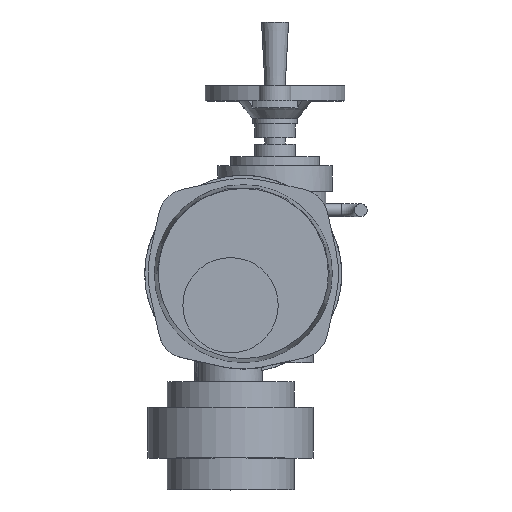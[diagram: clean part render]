
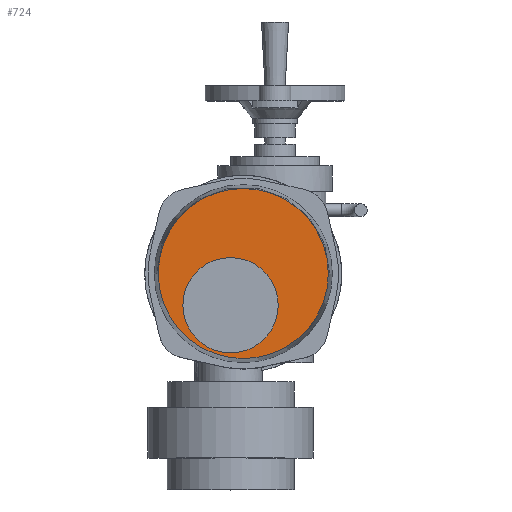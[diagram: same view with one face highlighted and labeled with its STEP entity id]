
A CAD part, top view. The second image highlights one B-rep face of the part: STEP entity #724.
In plain terms, the highlighted planar face has unit normal (0, 0, 1).
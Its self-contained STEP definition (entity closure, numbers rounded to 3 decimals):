
#724=ADVANCED_FACE('',(#7376,#7378),#7380,.T.);
#7376=FACE_BOUND('',#7377,.T.);
#7377=EDGE_LOOP('',(#12563));
#7378=FACE_BOUND('',#7379,.T.);
#7379=EDGE_LOOP('',(#12564));
#7380=PLANE('',#7381);
#7381=AXIS2_PLACEMENT_3D('',#7382,#7383,#7384);
#7382=CARTESIAN_POINT('',(15.,30.,392.));
#7383=DIRECTION('',(0.,0.,1.));
#7384=DIRECTION('',(-1.,0.,0.));
#12563=ORIENTED_EDGE('',*,*,#16531,.T.);
#12564=ORIENTED_EDGE('',*,*,#16534,.F.);
#16531=EDGE_CURVE('',#18729,#18729,#18730,.T.);
#16534=EDGE_CURVE('',#18735,#18735,#18736,.T.);
#18729=VERTEX_POINT('',#23208);
#18730=CIRCLE('',#23209,66.908);
#18735=VERTEX_POINT('',#23223);
#18736=CIRCLE('',#23224,37.5);
#23208=CARTESIAN_POINT('',(-51.908,30.,392.));
#23209=AXIS2_PLACEMENT_3D('',#23210,#23211,#23212);
#23210=CARTESIAN_POINT('',(15.,30.,392.));
#23211=DIRECTION('',(0.,0.,1.));
#23212=DIRECTION('',(-1.,0.,0.));
#23223=CARTESIAN_POINT('',(-32.5,5.,392.));
#23224=AXIS2_PLACEMENT_3D('',#23225,#23226,#23227);
#23225=CARTESIAN_POINT('',(5.,5.,392.));
#23226=DIRECTION('',(0.,0.,1.));
#23227=DIRECTION('',(-1.,0.,0.));
